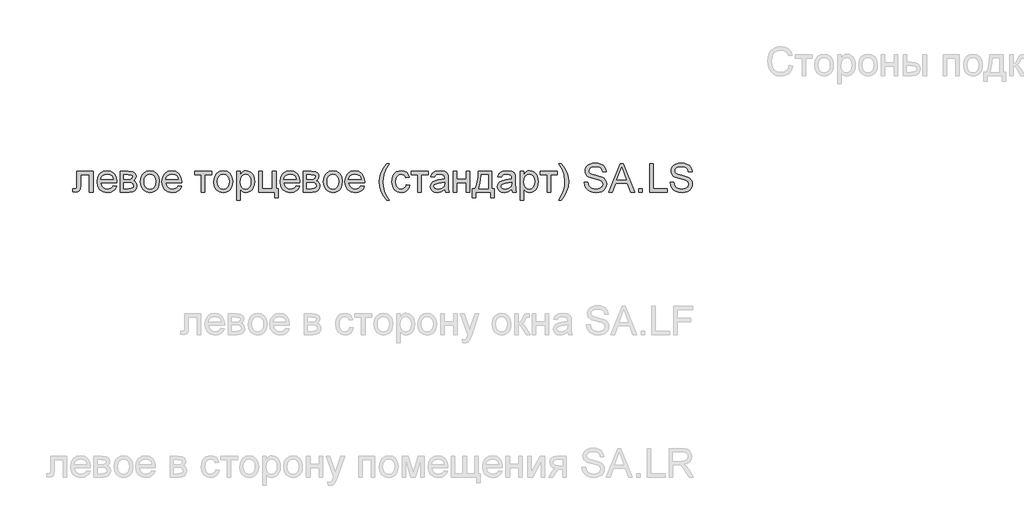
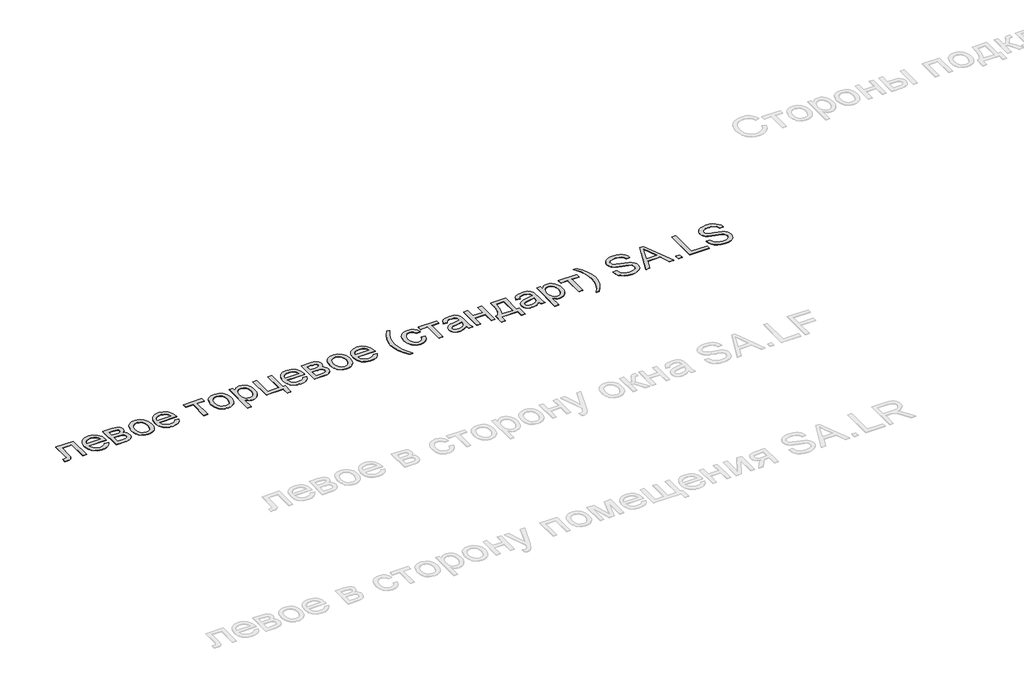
# One storey, part 6 of 17: 1 proxy.
"""IFC4 building model written with IfcOpenShell, lengths in millimetres."""

from ifc_helpers import new_model, si_unit, origin, origin_with_axes, place, context, project, spatial, polyline, outline, extrude, element, save

model = new_model("IFC4")

# Units and contexts
model_context = context("Model", 3, world=origin())
ifc_project = project(units=[si_unit("LENGTHUNIT", "METRE", prefix="MILLI")], contexts=[model_context])

# Site, building, storey
site = spatial("IfcSite", under=ifc_project)
building = spatial("IfcBuilding", under=site)
storey = spatial("IfcBuildingStorey", under=building, Name="Уровень 1", Elevation=0.0)

# Proxy
placement = place(None, origin())
element("IfcBuildingElementProxy", 1, Name="Текст модели 1", ObjectType="Текст модели 1", at=placement, inside=storey, context=model_context, shape_type="SweptSolid", body=[
    extrude(outline(polyline([(14946.6933776, -9578.6972647), (15059.7067265, -9578.6972647), (15059.7067265, -9726.0953174), (15034.592649, -9726.0953174), (15034.592649, -9603.8113423), (14971.8074551, -9603.8113423), (14971.8074551, -9674.1994307), (14970.1151979, -9706.6711481), (14960.8200462, -9720.3808838), (14951.5248944, -9724.7770736), (14938.8452283, -9726.2424702), (14918.4400403, -9724.967146), (14918.4400403, -9701.1283927), (14929.6727039, -9701.1283927), (14941.0279948, -9699.5832883), (14945.5652061, -9694.6781951), (14946.6933776, -9672.7769536), (14946.6933776, -9578.6972647)])), origin_with_axes(), (0.0, 0.0, 1.0), 2.0),
    extrude(outline(polyline([(15200.679107, -9682.2928346), (15225.3026752, -9685.4320942), (15216.4305878, -9703.9856095), (15202.2732624, -9717.8547608), (15183.14953, -9726.4999876), (15159.3782217, -9729.3817299), (15129.9108739, -9724.4091916), (15107.2370803, -9709.4915767), (15092.7793179, -9685.5976411), (15087.9600637, -9653.6961408), (15092.8283688, -9620.7216513), (15107.433284, -9596.0612949), (15129.8005093, -9580.6838275), (15157.9557447, -9575.558005), (15185.2341946, -9580.6715648), (15207.0312028, -9596.012244), (15221.3234183, -9620.6235494), (15226.0874902, -9653.548988), (15225.9403374, -9660.3180167), (15113.0741413, -9660.3180167), (15117.4212802, -9679.1167867), (15127.5196409, -9692.936887), (15142.0938993, -9701.434961), (15159.868731, -9704.2676524), (15184.4922993, -9699.0192026), (15193.6402982, -9692.2133857), (15200.679107, -9682.2928346)]), holes=[polyline([(15113.0741413, -9635.2039392), (15200.9734126, -9635.2039392), (15197.5766355, -9621.9356619), (15190.9179714, -9612.4443064), (15176.276268, -9603.6151385), (15157.8576428, -9600.6720826), (15140.9289397, -9603.020396), (15126.9310297, -9610.0653362), (15117.200551, -9621.0466137), (15113.0741413, -9635.2039392)])]), origin_with_axes(), (0.0, 0.0, 1.0), 2.0),
    extrude(outline(polyline([(15251.2015677, -9578.6972647), (15306.5310198, -9578.6972647), (15336.8690217, -9582.0572536), (15353.9387462, -9594.3690377), (15359.2914293, -9604.2098811), (15361.0756569, -9615.8288208), (15356.7591749, -9633.2664273), (15343.7606777, -9645.7008388), (15353.0558294, -9650.9186317), (15360.6341985, -9659.3124726), (15365.6741819, -9670.2201737), (15367.3541763, -9682.9795476), (15363.0990079, -9702.1216741), (15352.982253, -9715.5984179), (15336.9671235, -9723.5814571), (15315.0168311, -9726.2424702), (15251.2015677, -9726.2424702), (15251.2015677, -9578.6972647)]), holes=[polyline([(15276.3156452, -9635.2039392), (15301.1354172, -9635.2039392), (15321.6141816, -9633.9286149), (15331.5715209, -9628.8273179), (15335.9615794, -9619.6057426), (15334.0363303, -9612.1132126), (15328.260583, -9607.2939585), (15301.9202321, -9603.8113423), (15276.3156452, -9603.8113423), (15276.3156452, -9635.2039392)]), polyline([(15276.3156452, -9701.1283927), (15307.119631, -9701.1283927), (15323.9073127, -9699.9940899), (15334.4410005, -9696.5911814), (15340.0941205, -9690.4046326), (15342.2400988, -9680.9194084), (15337.9481422, -9668.8283535), (15326.7645295, -9661.7895447), (15304.6670843, -9660.3180167), (15276.3156452, -9660.3180167), (15276.3156452, -9701.1283927)])]), origin_with_axes(), (0.0, 0.0, 1.0), 2.0),
    extrude(outline(polyline([(15392.4682539, -9652.4698675), (15397.9006447, -9616.8956785), (15404.6911331, -9603.0725126), (15414.197817, -9591.8919656), (15434.3332249, -9579.6414952), (15458.4417583, -9575.558005), (15484.8250287, -9580.5305433), (15505.8985357, -9595.4481582), (15519.7125046, -9619.1336274), (15524.3171609, -9650.4097283), (15522.2815472, -9675.7813232), (15516.1747061, -9695.095128), (15506.1744472, -9709.5590218), (15492.4585801, -9720.3808838), (15476.1675391, -9727.1315184), (15458.4417583, -9729.3817299), (15431.7396568, -9724.4275857), (15410.6906754, -9709.5651531), (15397.0238592, -9685.3830433), (15392.4682539, -9652.4698675)]), holes=[polyline([(15417.5823314, -9652.4208165), (15420.4885992, -9675.1497925), (15429.2074024, -9691.3427316), (15442.3285269, -9701.0364222), (15458.4417583, -9704.2676524), (15474.4814133, -9701.0180281), (15487.5780123, -9691.2691552), (15496.2968156, -9674.8616183), (15499.2030834, -9651.6360016), (15496.2784215, -9629.5692133), (15487.5044359, -9613.5970033), (15474.3894428, -9603.9033128), (15458.4417583, -9600.6720826), (15442.3285269, -9603.89105), (15429.2074024, -9613.5479524), (15420.4885992, -9629.7041033), (15417.5823314, -9652.4208165)])]), origin_with_axes(), (0.0, 0.0, 1.0), 2.0),
    extrude(outline(polyline([(15655.8717624, -9682.2928346), (15680.4953306, -9685.4320942), (15671.6232432, -9703.9856095), (15657.4659177, -9717.8547608), (15638.3421853, -9726.4999876), (15614.5708771, -9729.3817299), (15585.1035293, -9724.4091916), (15562.4297356, -9709.4915767), (15547.9719732, -9685.5976411), (15543.1527191, -9653.6961408), (15548.0210242, -9620.7216513), (15562.6259394, -9596.0612949), (15584.9931647, -9580.6838275), (15613.1484, -9575.558005), (15640.42685, -9580.6715648), (15662.2238582, -9596.012244), (15676.5160737, -9620.6235494), (15681.2801455, -9653.548988), (15681.1329927, -9660.3180167), (15568.2667966, -9660.3180167), (15572.6139355, -9679.1167867), (15582.7122963, -9692.936887), (15597.2865547, -9701.434961), (15615.0613864, -9704.2676524), (15639.6849546, -9699.0192026), (15648.8329536, -9692.2133857), (15655.8717624, -9682.2928346)]), holes=[polyline([(15568.2667966, -9635.2039392), (15656.166068, -9635.2039392), (15652.7692909, -9621.9356619), (15646.1106268, -9612.4443064), (15631.4689234, -9603.6151385), (15613.0502982, -9600.6720826), (15596.121595, -9603.020396), (15582.1236851, -9610.0653362), (15572.3932063, -9621.0466137), (15568.2667966, -9635.2039392)])]), origin_with_axes(), (0.0, 0.0, 1.0), 2.0),
    extrude(outline(polyline([(15772.3186766, -9578.6972647), (15891.6105449, -9578.6972647), (15891.6105449, -9603.8113423), (15844.5216495, -9603.8113423), (15844.5216495, -9726.2424702), (15819.407572, -9726.2424702), (15819.407572, -9603.8113423), (15772.3186766, -9603.8113423), (15772.3186766, -9578.6972647)])), origin_with_axes(), (0.0, 0.0, 1.0), 2.0),
    extrude(outline(polyline([(15907.3068434, -9652.4698675), (15912.7392342, -9616.8956785), (15919.5297227, -9603.0725126), (15929.0364066, -9591.8919656), (15949.1718144, -9579.6414952), (15973.2803478, -9575.558005), (15999.6636183, -9580.5305433), (16020.7371252, -9595.4481582), (16034.5510941, -9619.1336274), (16039.1557504, -9650.4097283), (16037.1201367, -9675.7813232), (16031.0132956, -9695.095128), (16021.0130367, -9709.5590218), (16007.2971697, -9720.3808838), (15991.0061286, -9727.1315184), (15973.2803478, -9729.3817299), (15946.5782464, -9724.4275857), (15925.5292649, -9709.5651531), (15911.8624487, -9685.3830433), (15907.3068434, -9652.4698675)]), holes=[polyline([(15932.4209209, -9652.4208165), (15935.3271887, -9675.1497925), (15944.045992, -9691.3427316), (15957.1671165, -9701.0364222), (15973.2803478, -9704.2676524), (15989.3200028, -9701.0180281), (16002.4166019, -9691.2691552), (16011.1354051, -9674.8616183), (16014.0416729, -9651.6360016), (16011.117011, -9629.5692133), (16002.3430255, -9613.5970033), (15989.2280323, -9603.9033128), (15973.2803478, -9600.6720826), (15957.1671165, -9603.89105), (15944.045992, -9613.5479524), (15935.3271887, -9629.7041033), (15932.4209209, -9652.4208165)])]), origin_with_axes(), (0.0, 0.0, 1.0), 2.0),
    extrude(outline(polyline([(16067.4090877, -9782.7491447), (16067.4090877, -9578.6972647), (16092.5231652, -9578.6972647), (16092.5231652, -9603.3208329), (16109.8871954, -9582.498712), (16120.5802987, -9577.2931818), (16133.3335412, -9575.558005), (16150.3174267, -9577.9860262), (16165.1675965, -9585.2700897), (16177.2586514, -9596.9687371), (16185.965192, -9612.6405101), (16191.2259045, -9631.1449745), (16192.9794754, -9651.341696), (16190.999044, -9672.8198732), (16185.0577497, -9692.0294447), (16175.3456651, -9707.9955233), (16162.0528623, -9719.7432217), (16146.5711617, -9726.9721029), (16130.2923834, -9729.3817299), (16118.7470201, -9727.7691805), (16108.4401929, -9722.9315323), (16092.5231652, -9706.6220972), (16092.5231652, -9782.7491447), (16067.4090877, -9782.7491447)]), holes=[polyline([(16092.5231652, -9653.6470899), (16095.2393606, -9676.161468), (16103.3879468, -9691.9068174), (16115.4115567, -9701.1774436), (16129.7528231, -9704.2676524), (16144.3270815, -9701.067079), (16156.6572597, -9691.465359), (16165.0633633, -9675.1436611), (16167.8653978, -9651.7831544), (16165.1308083, -9629.3914037), (16156.9270398, -9613.4253251), (16144.9218241, -9603.8603932), (16130.7828927, -9600.6720826), (16116.5887791, -9604.0627283), (16104.1237108, -9614.2346654), (16095.4233016, -9630.869063), (16092.5231652, -9653.6470899)])]), origin_with_axes(), (0.0, 0.0, 1.0), 2.0),
    extrude(outline(polyline([(16221.2328126, -9578.6972647), (16246.3468901, -9578.6972647), (16246.3468901, -9701.1283927), (16318.549863, -9701.1283927), (16318.549863, -9578.6972647), (16343.6639406, -9578.6972647), (16343.6639406, -9701.1283927), (16359.360239, -9701.1283927), (16359.360239, -9767.0528462), (16334.2461615, -9767.0528462), (16334.2461615, -9726.2424702), (16221.2328126, -9726.2424702), (16221.2328126, -9578.6972647)])), origin_with_axes(), (0.0, 0.0, 1.0), 2.0),
    extrude(outline(polyline([(16484.6363211, -9682.2928346), (16509.2598893, -9685.4320942), (16500.3878019, -9703.9856095), (16486.2304765, -9717.8547608), (16467.1067441, -9726.4999876), (16443.3354358, -9729.3817299), (16413.868088, -9724.4091916), (16391.1942944, -9709.4915767), (16376.736532, -9685.5976411), (16371.9172778, -9653.6961408), (16376.7855829, -9620.7216513), (16391.3904981, -9596.0612949), (16413.7577234, -9580.6838275), (16441.9129588, -9575.558005), (16469.1914087, -9580.6715648), (16490.9884169, -9596.012244), (16505.2806324, -9620.6235494), (16510.0447043, -9653.548988), (16509.8975515, -9660.3180167), (16397.0313554, -9660.3180167), (16401.3784943, -9679.1167867), (16411.476855, -9692.936887), (16426.0511134, -9701.434961), (16443.8259451, -9704.2676524), (16468.4495134, -9699.0192026), (16477.5975123, -9692.2133857), (16484.6363211, -9682.2928346)]), holes=[polyline([(16397.0313554, -9635.2039392), (16484.9306267, -9635.2039392), (16481.5338496, -9621.9356619), (16474.8751855, -9612.4443064), (16460.2334821, -9603.6151385), (16441.8148569, -9600.6720826), (16424.8861538, -9603.020396), (16410.8882438, -9610.0653362), (16401.1577651, -9621.0466137), (16397.0313554, -9635.2039392)])]), origin_with_axes(), (0.0, 0.0, 1.0), 2.0),
    extrude(outline(polyline([(16535.1587818, -9578.6972647), (16590.4882339, -9578.6972647), (16620.8262358, -9582.0572536), (16637.8959603, -9594.3690377), (16643.2486434, -9604.2098811), (16645.032871, -9615.8288208), (16640.716389, -9633.2664273), (16627.7178918, -9645.7008388), (16637.0130435, -9650.9186317), (16644.5914126, -9659.3124726), (16649.631396, -9670.2201737), (16651.3113904, -9682.9795476), (16647.056222, -9702.1216741), (16636.9394671, -9715.5984179), (16620.9243376, -9723.5814571), (16598.9740452, -9726.2424702), (16535.1587818, -9726.2424702), (16535.1587818, -9578.6972647)]), holes=[polyline([(16560.2728593, -9635.2039392), (16585.0926313, -9635.2039392), (16605.5713957, -9633.9286149), (16615.528735, -9628.8273179), (16619.9187935, -9619.6057426), (16617.9935444, -9612.1132126), (16612.2177971, -9607.2939585), (16585.8774462, -9603.8113423), (16560.2728593, -9603.8113423), (16560.2728593, -9635.2039392)]), polyline([(16560.2728593, -9701.1283927), (16591.0768451, -9701.1283927), (16607.8645268, -9699.9940899), (16618.3982146, -9696.5911814), (16624.0513346, -9690.4046326), (16626.1973129, -9680.9194084), (16621.9053563, -9668.8283535), (16610.7217436, -9661.7895447), (16588.6242984, -9660.3180167), (16560.2728593, -9660.3180167), (16560.2728593, -9701.1283927)])]), origin_with_axes(), (0.0, 0.0, 1.0), 2.0),
    extrude(outline(polyline([(16676.425468, -9652.4698675), (16681.8578588, -9616.8956785), (16688.6483472, -9603.0725126), (16698.1550311, -9591.8919656), (16718.290439, -9579.6414952), (16742.3989724, -9575.558005), (16768.7822428, -9580.5305433), (16789.8557498, -9595.4481582), (16803.6697187, -9619.1336274), (16808.274375, -9650.4097283), (16806.2387613, -9675.7813232), (16800.1319202, -9695.095128), (16790.1316613, -9709.5590218), (16776.4157942, -9720.3808838), (16760.1247532, -9727.1315184), (16742.3989724, -9729.3817299), (16715.6968709, -9724.4275857), (16694.6478895, -9709.5651531), (16680.9810733, -9685.3830433), (16676.425468, -9652.4698675)]), holes=[polyline([(16701.5395455, -9652.4208165), (16704.4458133, -9675.1497925), (16713.1646165, -9691.3427316), (16726.285741, -9701.0364222), (16742.3989724, -9704.2676524), (16758.4386274, -9701.0180281), (16771.5352264, -9691.2691552), (16780.2540297, -9674.8616183), (16783.1602975, -9651.6360016), (16780.2356356, -9629.5692133), (16771.46165, -9613.5970033), (16758.3466569, -9603.9033128), (16742.3989724, -9600.6720826), (16726.285741, -9603.89105), (16713.1646165, -9613.5479524), (16704.4458133, -9629.7041033), (16701.5395455, -9652.4208165)])]), origin_with_axes(), (0.0, 0.0, 1.0), 2.0),
    extrude(outline(polyline([(16939.8289765, -9682.2928346), (16964.4525447, -9685.4320942), (16955.5804573, -9703.9856095), (16941.4231318, -9717.8547608), (16922.2993994, -9726.4999876), (16898.5280912, -9729.3817299), (16869.0607434, -9724.4091916), (16846.3869497, -9709.4915767), (16831.9291873, -9685.5976411), (16827.1099332, -9653.6961408), (16831.9782383, -9620.7216513), (16846.5831535, -9596.0612949), (16868.9503788, -9580.6838275), (16897.1056141, -9575.558005), (16924.3840641, -9580.6715648), (16946.1810723, -9596.012244), (16960.4732878, -9620.6235494), (16965.2373596, -9653.548988), (16965.0902068, -9660.3180167), (16852.2240107, -9660.3180167), (16856.5711496, -9679.1167867), (16866.6695104, -9692.936887), (16881.2437688, -9701.434961), (16899.0186005, -9704.2676524), (16923.6421687, -9699.0192026), (16932.7901677, -9692.2133857), (16939.8289765, -9682.2928346)]), holes=[polyline([(16852.2240107, -9635.2039392), (16940.1232821, -9635.2039392), (16936.726505, -9621.9356619), (16930.0678409, -9612.4443064), (16915.4261375, -9603.6151385), (16897.0075123, -9600.6720826), (16880.0788091, -9603.020396), (16866.0808992, -9610.0653362), (16856.3504204, -9621.0466137), (16852.2240107, -9635.2039392)])]), origin_with_axes(), (0.0, 0.0, 1.0), 2.0),
    extrude(outline(polyline([(17119.0610846, -9782.7491447), (17099.600127, -9755.4400379), (17083.4010565, -9723.8389745), (17072.4749612, -9689.4787962), (17068.8329295, -9653.8923445), (17071.5552562, -9622.6836886), (17079.7222365, -9592.8239333), (17095.9335698, -9559.0033152), (17119.0610846, -9525.3298499), (17137.8966427, -9525.3298499), (17114.4012459, -9565.1101564), (17100.2745773, -9603.6641895), (17093.947007, -9654.0394973), (17096.6938592, -9686.2353033), (17104.9344159, -9718.4188465), (17118.6686771, -9750.590127), (17137.8966427, -9782.7491447), (17119.0610846, -9782.7491447)])), origin_with_axes(), (0.0, 0.0, 1.0), 2.0),
    extrude(outline(polyline([(17257.188511, -9672.8750555), (17282.3025885, -9676.0143152), (17275.3005679, -9698.3508836), (17262.1426552, -9715.2305359), (17244.0673865, -9725.8439314), (17222.3132979, -9729.3817299), (17195.5989337, -9724.4459798), (17174.7093677, -9709.6387295), (17161.2264926, -9685.6099039), (17156.7322009, -9653.0094277), (17158.6513186, -9630.6605965), (17164.4086718, -9611.2916095), (17174.096231, -9595.6504933), (17187.8059667, -9584.4852748), (17204.2073723, -9577.7898225), (17221.9699413, -9575.558005), (17243.1906011, -9578.6236883), (17260.1560924, -9587.8207382), (17272.3268551, -9602.6586453), (17279.1633289, -9622.6469004), (17254.0492513, -9625.7861601), (17249.4936459, -9614.829408), (17242.3996548, -9606.9751274), (17233.1596854, -9602.2478438), (17222.1661451, -9600.6720826), (17205.9364177, -9603.7745541), (17193.0544165, -9613.0819685), (17184.6483129, -9629.0970981), (17181.8462784, -9652.3227147), (17184.5869993, -9675.861031), (17192.8091619, -9691.9313428), (17205.4581711, -9701.183575), (17221.479432, -9704.2676524), (17234.4840605, -9702.3424033), (17245.146507, -9696.566656), (17252.9026858, -9686.7932576), (17257.188511, -9672.8750555)])), origin_with_axes(), (0.0, 0.0, 1.0), 2.0),
    extrude(outline(polyline([(17291.7203676, -9578.6972647), (17411.0122359, -9578.6972647), (17411.0122359, -9603.8113423), (17363.9233405, -9603.8113423), (17363.9233405, -9726.2424702), (17338.809263, -9726.2424702), (17338.809263, -9603.8113423), (17291.7203676, -9603.8113423), (17291.7203676, -9578.6972647)])), origin_with_axes(), (0.0, 0.0, 1.0), 2.0),
    extrude(outline(polyline([(17527.1648445, -9707.4069121), (17502.8110565, -9724.4275857), (17475.9066199, -9729.3817299), (17454.9189521, -9726.4018858), (17439.4372514, -9717.4623533), (17429.8907136, -9703.8875077), (17426.7085344, -9687.0017241), (17431.5155258, -9667.1360964), (17444.146141, -9652.7151221), (17461.7309003, -9644.4745655), (17483.4604635, -9640.6976436), (17527.0176917, -9632.0646795), (17527.1648445, -9626.4728732), (17525.4357992, -9615.264735), (17520.248663, -9607.9316206), (17508.6481174, -9602.4869671), (17492.4858351, -9600.6720826), (17477.5253007, -9601.8799618), (17467.077452, -9605.5035994), (17459.952804, -9612.2051831), (17454.9618716, -9622.6469004), (17429.8477941, -9619.5076407), (17440.7125757, -9594.9821744), (17449.9709392, -9586.7293549), (17462.5892917, -9580.6102511), (17495.7231967, -9575.558005), (17526.1593004, -9580.0216399), (17543.3516523, -9591.229778), (17551.0526488, -9608.2749771), (17552.2789221, -9630.249795), (17552.2789221, -9661.4952391), (17553.5542463, -9705.1260437), (17558.5574415, -9726.2424702), (17533.4433639, -9726.2424702), (17527.1648445, -9707.4069121)]), holes=[polyline([(17527.1648445, -9657.178757), (17486.6487741, -9664.8797535), (17465.0418383, -9668.9509809), (17455.2561772, -9675.5728568), (17451.8226119, -9685.2358905), (17453.6926787, -9692.703895), (17459.3028792, -9698.8229989), (17468.5305859, -9702.906489), (17481.2531715, -9704.2676524), (17494.742178, -9702.7654676), (17506.6615547, -9698.2589131), (17523.0445662, -9683.7153116), (17527.0176917, -9664.2911423), (17527.1648445, -9657.178757)])]), origin_with_axes(), (0.0, 0.0, 1.0), 2.0),
    extrude(outline(polyline([(17586.8107787, -9578.6972647), (17611.9248562, -9578.6972647), (17611.9248562, -9635.2039392), (17677.8493098, -9635.2039392), (17677.8493098, -9578.6972647), (17702.9633873, -9578.6972647), (17702.9633873, -9726.2424702), (17677.8493098, -9726.2424702), (17677.8493098, -9660.3180167), (17611.9248562, -9660.3180167), (17611.9248562, -9726.2424702), (17586.8107787, -9726.2424702), (17586.8107787, -9578.6972647)])), origin_with_axes(), (0.0, 0.0, 1.0), 2.0),
    extrude(outline(polyline([(17762.6093215, -9578.6972647), (17856.7871122, -9578.6972647), (17856.7871122, -9701.1283927), (17875.6226704, -9701.1283927), (17875.6226704, -9767.0528462), (17850.5085928, -9767.0528462), (17850.5085928, -9726.2424702), (17746.913023, -9726.2424702), (17746.913023, -9767.0528462), (17721.7989455, -9767.0528462), (17721.7989455, -9701.1283927), (17737.4952439, -9701.1283927), (17748.9057171, -9680.5086069), (17756.8948878, -9653.2301569), (17761.4627559, -9619.2930429), (17762.6093215, -9578.6972647)]), holes=[polyline([(17784.5841393, -9603.8113423), (17778.6980274, -9661.0292552), (17765.7485811, -9701.1283927), (17831.6730347, -9701.1283927), (17831.6730347, -9603.8113423), (17784.5841393, -9603.8113423)])]), origin_with_axes(), (0.0, 0.0, 1.0), 2.0),
    extrude(outline(polyline([(17998.0537984, -9707.4069121), (17973.7000103, -9724.4275857), (17946.7955737, -9729.3817299), (17925.8079059, -9726.4018858), (17910.3262052, -9717.4623533), (17900.7796675, -9703.8875077), (17897.5974882, -9687.0017241), (17902.4044796, -9667.1360964), (17915.0350948, -9652.7151221), (17932.6198542, -9644.4745655), (17954.3494173, -9640.6976436), (17997.9066456, -9632.0646795), (17998.0537984, -9626.4728732), (17996.324753, -9615.264735), (17991.1376169, -9607.9316206), (17979.5370713, -9602.4869671), (17963.374789, -9600.6720826), (17948.4142545, -9601.8799618), (17937.9664058, -9605.5035994), (17930.8417578, -9612.2051831), (17925.8508254, -9622.6469004), (17900.7367479, -9619.5076407), (17911.6015295, -9594.9821744), (17920.859893, -9586.7293549), (17933.4782455, -9580.6102511), (17966.6121505, -9575.558005), (17997.0482542, -9580.0216399), (18014.2406062, -9591.229778), (18021.9416026, -9608.2749771), (18023.1678759, -9630.249795), (18023.1678759, -9661.4952391), (18024.4432002, -9705.1260437), (18029.4463953, -9726.2424702), (18004.3323177, -9726.2424702), (17998.0537984, -9707.4069121)]), holes=[polyline([(17998.0537984, -9657.178757), (17957.537728, -9664.8797535), (17935.9307921, -9668.9509809), (17926.145131, -9675.5728568), (17922.7115658, -9685.2358905), (17924.5816326, -9692.703895), (17930.191833, -9698.8229989), (17939.4195397, -9702.906489), (17952.1421254, -9704.2676524), (17965.6311319, -9702.7654676), (17977.5505085, -9698.2589131), (17993.93352, -9683.7153116), (17997.9066456, -9664.2911423), (17998.0537984, -9657.178757)])]), origin_with_axes(), (0.0, 0.0, 1.0), 2.0),
    extrude(outline(polyline([(18057.6997325, -9782.7491447), (18057.6997325, -9578.6972647), (18082.8138101, -9578.6972647), (18082.8138101, -9603.3208329), (18100.1778402, -9582.498712), (18110.8709436, -9577.2931818), (18123.6241861, -9575.558005), (18140.6080715, -9577.9860262), (18155.4582414, -9585.2700897), (18167.5492963, -9596.9687371), (18176.2558368, -9612.6405101), (18181.5165494, -9631.1449745), (18183.2701202, -9651.341696), (18181.2896888, -9672.8198732), (18175.3483946, -9692.0294447), (18165.6363099, -9707.9955233), (18152.3435071, -9719.7432217), (18136.8618065, -9726.9721029), (18120.5830282, -9729.3817299), (18109.0376649, -9727.7691805), (18098.7308377, -9722.9315323), (18082.8138101, -9706.6220972), (18082.8138101, -9782.7491447), (18057.6997325, -9782.7491447)]), holes=[polyline([(18082.8138101, -9653.6470899), (18085.5300055, -9676.161468), (18093.6785916, -9691.9068174), (18105.7022015, -9701.1774436), (18120.043468, -9704.2676524), (18134.6177263, -9701.067079), (18146.9479045, -9691.465359), (18155.3540081, -9675.1436611), (18158.1560427, -9651.7831544), (18155.4214532, -9629.3914037), (18147.2176847, -9613.4253251), (18135.2124689, -9603.8603932), (18121.0735376, -9600.6720826), (18106.8794239, -9604.0627283), (18094.4143556, -9614.2346654), (18085.7139464, -9630.869063), (18082.8138101, -9653.6470899)])]), origin_with_axes(), (0.0, 0.0, 1.0), 2.0),
    extrude(outline(polyline([(18198.9664187, -9578.6972647), (18318.258287, -9578.6972647), (18318.258287, -9603.8113423), (18271.1693916, -9603.8113423), (18271.1693916, -9726.2424702), (18246.055314, -9726.2424702), (18246.055314, -9603.8113423), (18198.9664187, -9603.8113423), (18198.9664187, -9578.6972647)])), origin_with_axes(), (0.0, 0.0, 1.0), 2.0),
    extrude(outline(polyline([(18346.5116242, -9782.7491447), (18327.676066, -9782.7491447), (18346.9040317, -9750.590127), (18360.6382928, -9718.4188465), (18368.8788495, -9686.2353033), (18371.6257017, -9654.0394973), (18365.2981314, -9604.1056478), (18351.3186156, -9565.5025638), (18327.676066, -9525.3298499), (18346.5116242, -9525.3298499), (18369.639139, -9559.0033152), (18385.8504722, -9592.8239333), (18394.0174525, -9622.6836886), (18396.7397793, -9653.8923445), (18393.0793534, -9689.4787962), (18382.0980759, -9723.8389745), (18365.8806112, -9755.4400379), (18346.5116242, -9782.7491447)])), origin_with_axes(), (0.0, 0.0, 1.0), 2.0),
    extrude(outline(polyline([(18506.6138685, -9657.178757), (18531.727946, -9657.178757), (18539.8213499, -9682.31736), (18547.951542, -9691.2078416), (18559.5888758, -9698.2098622), (18573.8136463, -9702.7532049), (18589.7061485, -9704.2676524), (18615.9483975, -9699.6813902), (18632.8954947, -9687.0753005), (18638.4627756, -9670.2263051), (18634.2934463, -9654.5545321), (18627.9413505, -9648.3557205), (18617.2237217, -9643.1501903), (18580.6562514, -9633.5607329), (18541.2928779, -9621.1753724), (18528.7910214, -9612.7263493), (18519.9311967, -9602.4869671), (18514.6520901, -9590.677955), (18512.8923879, -9577.5200423), (18515.069023, -9562.8108939), (18521.5989284, -9549.0950268), (18532.3104259, -9537.4699558), (18547.031837, -9529.0331954), (18564.7024355, -9523.9012415), (18584.2614949, -9522.1905903), (18605.4514979, -9523.9809493), (18623.9927504, -9529.3520264), (18639.223065, -9538.193457), (18650.4802541, -9550.3948766), (18657.604902, -9565.1959955), (18660.4375934, -9581.8365244), (18635.3235159, -9581.8365244), (18630.7127282, -9566.8514645), (18621.0987454, -9556.0357338), (18606.0768973, -9549.4874343), (18585.2425136, -9547.3046678), (18563.9176206, -9549.4629088), (18549.2881799, -9555.9376319), (18540.826894, -9565.4657756), (18538.0064654, -9576.7842783), (18540.0052909, -9586.4350493), (18546.0017674, -9594.1973594), (18560.177487, -9601.1380664), (18587.0083472, -9608.2259262), (18631.4484922, -9620.8320159), (18645.7652332, -9629.9432266), (18655.7532293, -9641.188153), (18661.6209472, -9654.4441675), (18663.5768531, -9669.588643), (18661.3266416, -9685.0703436), (18654.576007, -9699.6323393), (18643.6008608, -9712.1648526), (18628.6771145, -9721.5581062), (18610.7306045, -9727.425824), (18590.6871671, -9729.3817299), (18566.081993, -9727.2725398), (18545.8300892, -9720.9449695), (18529.6984637, -9710.3744935), (18517.4541246, -9695.5365864), (18509.5937127, -9677.4613177), (18506.6138685, -9657.178757)])), origin_with_axes(), (0.0, 0.0, 1.0), 2.0),
    extrude(outline(polyline([(18677.8506745, -9726.2424702), (18758.0489495, -9525.3298499), (18779.4351561, -9525.3298499), (18859.6334311, -9726.2424702), (18833.0968765, -9726.2424702), (18810.0919891, -9663.4572764), (18727.3430656, -9663.4572764), (18704.3872291, -9726.2424702), (18677.8506745, -9726.2424702)]), holes=[polyline([(18736.5646409, -9638.3431989), (18800.9194646, -9638.3431989), (18782.8196705, -9588.9489096), (18768.7420528, -9550.4439275), (18756.234065, -9584.6324276), (18736.5646409, -9638.3431989)])]), origin_with_axes(), (0.0, 0.0, 1.0), 2.0),
    extrude(outline(polyline([(18889.6035509, -9726.2424702), (18889.6035509, -9701.1283927), (18914.7176285, -9701.1283927), (18914.7176285, -9726.2424702), (18889.6035509, -9726.2424702)])), origin_with_axes(), (0.0, 0.0, 1.0), 2.0),
    extrude(outline(polyline([(18964.9457836, -9726.2424702), (18964.9457836, -9525.3298499), (18990.0598611, -9525.3298499), (18990.0598611, -9701.1283927), (19090.5161712, -9701.1283927), (19090.5161712, -9726.2424702), (18964.9457836, -9726.2424702)])), origin_with_axes(), (0.0, 0.0, 1.0), 2.0),
    extrude(outline(polyline([(19109.3517294, -9657.178757), (19134.4658069, -9657.178757), (19142.5592108, -9682.31736), (19150.6894029, -9691.2078416), (19162.3267367, -9698.2098622), (19176.5515072, -9702.7532049), (19192.4440094, -9704.2676524), (19218.6862584, -9699.6813902), (19235.6333556, -9687.0753005), (19241.2006365, -9670.2263051), (19237.0313072, -9654.5545321), (19230.6792114, -9648.3557205), (19219.9615826, -9643.1501903), (19183.3941123, -9633.5607329), (19144.0307388, -9621.1753724), (19131.5288823, -9612.7263493), (19122.6690576, -9602.4869671), (19117.389951, -9590.677955), (19115.6302488, -9577.5200423), (19117.8068839, -9562.8108939), (19124.3367893, -9549.0950268), (19135.0482868, -9537.4699558), (19149.7696979, -9529.0331954), (19167.4402964, -9523.9012415), (19186.9993558, -9522.1905903), (19208.1893588, -9523.9809493), (19226.7306113, -9529.3520264), (19241.9609259, -9538.193457), (19253.218115, -9550.3948766), (19260.3427629, -9565.1959955), (19263.1754543, -9581.8365244), (19238.0613768, -9581.8365244), (19233.4505891, -9566.8514645), (19223.8366063, -9556.0357338), (19208.8147582, -9549.4874343), (19187.9803745, -9547.3046678), (19166.6554815, -9549.4629088), (19152.0260408, -9555.9376319), (19143.5647549, -9565.4657756), (19140.7443263, -9576.7842783), (19142.7431518, -9586.4350493), (19148.7396283, -9594.1973594), (19162.9153479, -9601.1380664), (19189.7462081, -9608.2259262), (19234.1863531, -9620.8320159), (19248.5030941, -9629.9432266), (19258.4910902, -9641.188153), (19264.3588081, -9654.4441675), (19266.314714, -9669.588643), (19264.0645025, -9685.0703436), (19257.3138679, -9699.6323393), (19246.3387217, -9712.1648526), (19231.4149754, -9721.5581062), (19213.4684654, -9727.425824), (19193.425028, -9729.3817299), (19168.8198539, -9727.2725398), (19148.5679501, -9720.9449695), (19132.4363246, -9710.3744935), (19120.1919855, -9695.5365864), (19112.3315736, -9677.4613177), (19109.3517294, -9657.178757)])), origin_with_axes(), (0.0, 0.0, 1.0), 2.0),
])

save(model, "model.ifc")
